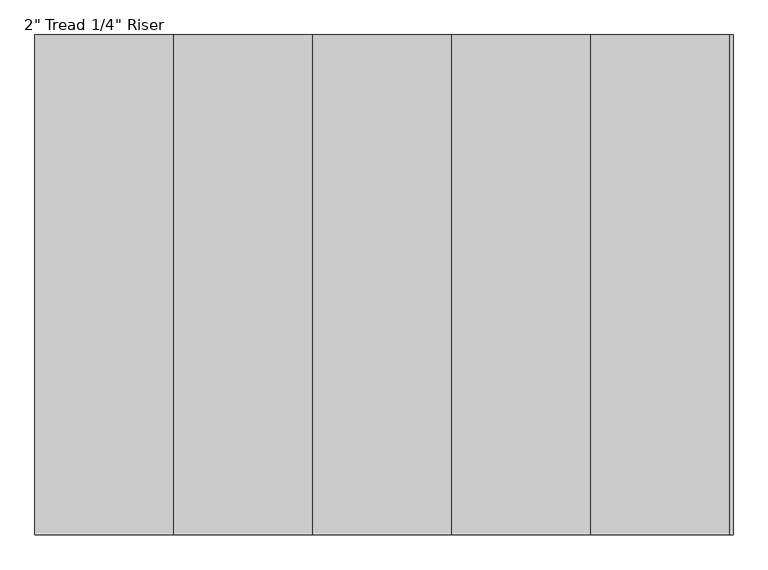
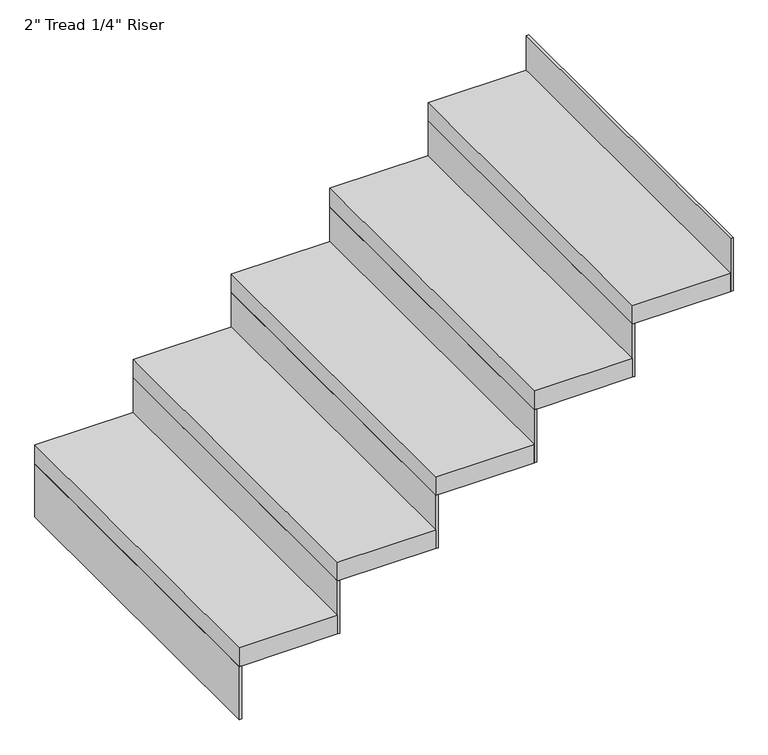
"""IFC4 building model written with IfcOpenShell, lengths in millimetres: stair flight geometry."""

from ifc_helpers import new_model, si_unit, frame, origin, place, context, project, spatial, polyline, outline, extrude, source, transform, mapped, element, save


def stair_flight_992c4a2e(model_context):
    return source(origin(), model_context, "Body", "SweptSolid", [
        extrude(outline(polyline([(51277.8741768, 36015.7361774), (51271.5241768, 36015.7361774), (51271.5241768, 36930.1361774), (51277.8741768, 36930.1361774), (51277.8741768, 36015.7361774)])), frame((0.0, 0.0, 2126.3428571), z_axis=(0.0, 0.0, 1.0), x_axis=(1.0, 0.0, 0.0)), (0.0, 0.0, 1.0), 145.1428571),
        extrude(outline(polyline([(51525.5241768, 36930.1361774), (51525.5241768, 36015.7361774), (51271.5241768, 36015.7361774), (51271.5241768, 36930.1361774), (51525.5241768, 36930.1361774)])), frame((0.0, 0.0, 2271.4857143), z_axis=(0.0, 0.0, 1.0), x_axis=(1.0, 0.0, 0.0)), (0.0, 0.0, 1.0), 50.8),
        extrude(outline(polyline([(51531.8741768, 36015.7361774), (51525.5241768, 36015.7361774), (51525.5241768, 36930.1361774), (51531.8741768, 36930.1361774), (51531.8741768, 36015.7361774)])), frame((0.0, 0.0, 2271.4857143), z_axis=(0.0, 0.0, 1.0), x_axis=(1.0, 0.0, 0.0)), (0.0, 0.0, 1.0), 145.1428571),
        extrude(outline(polyline([(51779.5241768, 36930.1361774), (51779.5241768, 36015.7361774), (51525.5241768, 36015.7361774), (51525.5241768, 36930.1361774), (51779.5241768, 36930.1361774)])), frame((0.0, 0.0, 2416.6285714), z_axis=(0.0, 0.0, 1.0), x_axis=(1.0, 0.0, 0.0)), (0.0, 0.0, 1.0), 50.8),
        extrude(outline(polyline([(51785.8741768, 36015.7361774), (51779.5241768, 36015.7361774), (51779.5241768, 36930.1361774), (51785.8741768, 36930.1361774), (51785.8741768, 36015.7361774)])), frame((0.0, 0.0, 2416.6285714), z_axis=(0.0, 0.0, 1.0), x_axis=(1.0, 0.0, 0.0)), (0.0, 0.0, 1.0), 145.1428571),
        extrude(outline(polyline([(52033.5241768, 36930.1361774), (52033.5241768, 36015.7361774), (51779.5241768, 36015.7361774), (51779.5241768, 36930.1361774), (52033.5241768, 36930.1361774)])), frame((0.0, 0.0, 2561.7714286), z_axis=(0.0, 0.0, 1.0), x_axis=(1.0, 0.0, 0.0)), (0.0, 0.0, 1.0), 50.8),
        extrude(outline(polyline([(52039.8741768, 36015.7361774), (52033.5241768, 36015.7361774), (52033.5241768, 36930.1361774), (52039.8741768, 36930.1361774), (52039.8741768, 36015.7361774)])), frame((0.0, 0.0, 2561.7714286), z_axis=(0.0, 0.0, 1.0), x_axis=(1.0, 0.0, 0.0)), (0.0, 0.0, 1.0), 145.1428571),
        extrude(outline(polyline([(52287.5241768, 36930.1361774), (52287.5241768, 36015.7361774), (52033.5241768, 36015.7361774), (52033.5241768, 36930.1361774), (52287.5241768, 36930.1361774)])), frame((0.0, 0.0, 2706.9142857), z_axis=(0.0, 0.0, 1.0), x_axis=(1.0, 0.0, 0.0)), (0.0, 0.0, 1.0), 50.8),
        extrude(outline(polyline([(52293.8741768, 36015.7361774), (52287.5241768, 36015.7361774), (52287.5241768, 36930.1361774), (52293.8741768, 36930.1361774), (52293.8741768, 36015.7361774)])), frame((0.0, 0.0, 2706.9142857), z_axis=(0.0, 0.0, 1.0), x_axis=(1.0, 0.0, 0.0)), (0.0, 0.0, 1.0), 145.1428571),
        extrude(outline(polyline([(52547.8741768, 36015.7361774), (52541.5241768, 36015.7361774), (52541.5241768, 36930.1361774), (52547.8741768, 36930.1361774), (52547.8741768, 36015.7361774)])), frame((0.0, 0.0, 2852.0571429), z_axis=(0.0, 0.0, 1.0), x_axis=(1.0, 0.0, 0.0)), (0.0, 0.0, 1.0), 145.1428571),
        extrude(outline(polyline([(52541.5241768, 36930.1361774), (52541.5241768, 36015.7361774), (52287.5241768, 36015.7361774), (52287.5241768, 36930.1361774), (52541.5241768, 36930.1361774)])), frame((0.0, 0.0, 2852.0571429), z_axis=(0.0, 0.0, 1.0), x_axis=(1.0, 0.0, 0.0)), (0.0, 0.0, 1.0), 50.8),
    ])


if __name__ == "__main__":
    model = new_model("IFC4")
    model_context = context("Model", 3, world=origin())
    ifc_project = project(units=[si_unit("LENGTHUNIT", "METRE", prefix="MILLI")], contexts=[model_context])
    site = spatial("IfcSite", under=ifc_project)
    building = spatial("IfcBuilding", under=site)
    placement = place(None, origin())
    stair_flight_shape = stair_flight_992c4a2e(model_context)
    element("IfcStairFlight", 1, ObjectType="2\" Tread 1/4\" Riser", at=placement, inside=building, context=model_context, shape_type="MappedRepresentation", body=[
        mapped(stair_flight_shape, transform((0.0, 0.0, 0.0), x_axis=(1.0, 0.0, 0.0), y_axis=(0.0, 1.0, 0.0), z_axis=(0.0, 0.0, 1.0))),
    ])
    save(model, "model.ifc")
